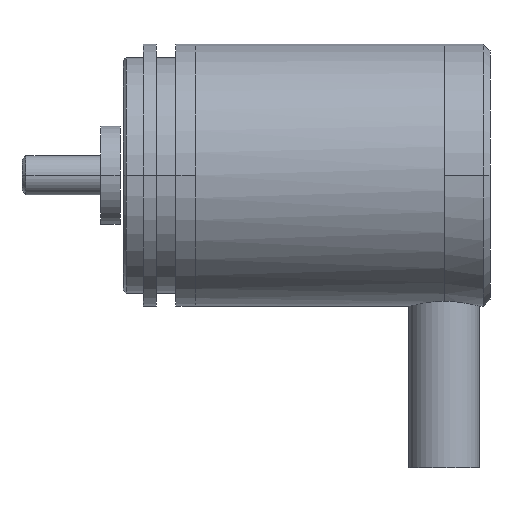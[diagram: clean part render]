
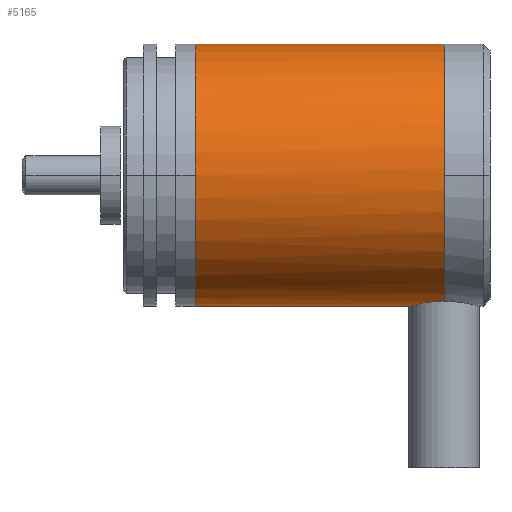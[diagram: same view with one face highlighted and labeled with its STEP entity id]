
A CAD part, front view. The second image highlights one B-rep face of the part: STEP entity #5165.
In plain terms, the highlighted cylindrical face has radius 10 mm (diameter 20 mm), a partial arc.
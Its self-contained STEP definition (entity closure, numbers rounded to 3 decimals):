
#284 = DIRECTION ( 'NONE',  ( 1., 0., 0. ) ) ;
#303 = CARTESIAN_POINT ( 'NONE',  ( 33.202, 11.371, 12.318 ) ) ;
#337 = CARTESIAN_POINT ( 'NONE',  ( 31.846, 9.03, 2.596 ) ) ;
#400 = DIRECTION ( 'NONE',  ( 1., 0., 0. ) ) ;
#762 = CARTESIAN_POINT ( 'NONE',  ( 31.415, 9.339, 2.526 ) ) ;
#934 = ORIENTED_EDGE ( 'NONE', *, *, #5564, .F. ) ;
#1220 = CARTESIAN_POINT ( 'NONE',  ( 30.843, 10.011, 2.406 ) ) ;
#1283 = CARTESIAN_POINT ( 'NONE',  ( 33.202, 11.371, 22.318 ) ) ;
#1316 = ORIENTED_EDGE ( 'NONE', *, *, #5542, .T. ) ;
#1555 = EDGE_LOOP ( 'NONE', ( #2625, #1316, #3606, #934, #2865 ) ) ;
#1561 = DIRECTION ( 'NONE',  ( 1., 0., 0. ) ) ;
#1581 = VERTEX_POINT ( 'NONE', #4446 ) ;
#1647 = DIRECTION ( 'NONE',  ( 1., 0., 0. ) ) ;
#1670 = CARTESIAN_POINT ( 'NONE',  ( 30.588, 10.669, 2.341 ) ) ;
#1712 = DIRECTION ( 'NONE',  ( 1., 0., 0. ) ) ;
#2131 = CIRCLE ( 'NONE', #3285, 10. ) ;
#2161 = CARTESIAN_POINT ( 'NONE',  ( 30.502, 11.194, 2.318 ) ) ;
#2465 = LINE ( 'NONE', #5747, #2896 ) ;
#2625 = ORIENTED_EDGE ( 'NONE', *, *, #5550, .T. ) ;
#2672 = CARTESIAN_POINT ( 'NONE',  ( 32.5, 8.758, 2.665 ) ) ;
#2865 = ORIENTED_EDGE ( 'NONE', *, *, #5569, .F. ) ;
#2896 = VECTOR ( 'NONE', #1561, 1000. ) ;
#3227 = CARTESIAN_POINT ( 'NONE',  ( 32.001, 8.947, 2.616 ) ) ;
#3285 = AXIS2_PLACEMENT_3D ( 'NONE', #3315, #400, #3835 ) ;
#3315 = CARTESIAN_POINT ( 'NONE',  ( 33.202, 11.371, 12.318 ) ) ;
#3349 = AXIS2_PLACEMENT_3D ( 'NONE', #4769, #1647, #5257 ) ;
#3389 = LINE ( 'NONE', #5334, #4793 ) ;
#3539 = CARTESIAN_POINT ( 'NONE',  ( 33.202, 8.671, 2.689 ) ) ;
#3606 = ORIENTED_EDGE ( 'NONE', *, *, #5552, .F. ) ;
#3734 = CARTESIAN_POINT ( 'NONE',  ( 33.202, 8.671, 2.689 ) ) ;
#3762 = CARTESIAN_POINT ( 'NONE',  ( 31.553, 9.226, 2.55 ) ) ;
#3763 = VERTEX_POINT ( 'NONE', #4736 ) ;
#3835 = DIRECTION ( 'NONE',  ( 0., 0., 1. ) ) ;
#3941 = VERTEX_POINT ( 'NONE', #5326 ) ;
#4239 = CARTESIAN_POINT ( 'NONE',  ( 33.022, 8.671, 2.689 ) ) ;
#4261 = CARTESIAN_POINT ( 'NONE',  ( 31.044, 9.711, 2.454 ) ) ;
#4312 = AXIS2_PLACEMENT_3D ( 'NONE', #303, #284, #5268 ) ;
#4446 = CARTESIAN_POINT ( 'NONE',  ( 14.202, 11.371, 2.318 ) ) ;
#4736 = CARTESIAN_POINT ( 'NONE',  ( 30.502, 11.371, 2.318 ) ) ;
#4769 = CARTESIAN_POINT ( 'NONE',  ( 14.202, 11.371, 12.318 ) ) ;
#4791 = CARTESIAN_POINT ( 'NONE',  ( 30.641, 10.498, 2.355 ) ) ;
#4793 = VECTOR ( 'NONE', #1712, 1000. ) ;
#4999 = CYLINDRICAL_SURFACE ( 'NONE', #4312, 10. ) ;
#5026 = B_SPLINE_CURVE_WITH_KNOTS ( 'NONE', 3,
 ( #3734, #4239, #5793, #2672, #6315, #3227, #337, #3762, #762, #4261, #1220, #4791, #1670, #5283, #2161, #5814 ),
 .UNSPECIFIED., .F., .F.,
 ( 4, 2, 2, 2, 2, 2, 2, 4 ),
 ( 0., 0.001, 0.001, 0.002, 0.002, 0.003, 0.004, 0.004 ),
 .UNSPECIFIED. ) ;
#5165 = ADVANCED_FACE ( 'NONE', ( #5666 ), #4999, .T. ) ;
#5257 = DIRECTION ( 'NONE',  ( 0., 0., 1. ) ) ;
#5268 = DIRECTION ( 'NONE',  ( 0., 0., 1. ) ) ;
#5283 = CARTESIAN_POINT ( 'NONE',  ( 30.519, 11.019, 2.323 ) ) ;
#5326 = CARTESIAN_POINT ( 'NONE',  ( 14.202, 11.371, 22.318 ) ) ;
#5334 = CARTESIAN_POINT ( 'NONE',  ( 33.202, 11.371, 22.318 ) ) ;
#5542 = EDGE_CURVE ( 'NONE', #1581, #3763, #2465, .T. ) ;
#5550 = EDGE_CURVE ( 'NONE', #3941, #1581, #5951, .T. ) ;
#5552 = EDGE_CURVE ( 'NONE', #6346, #3763, #5026, .T. ) ;
#5564 = EDGE_CURVE ( 'NONE', #5871, #6346, #2131, .T. ) ;
#5569 = EDGE_CURVE ( 'NONE', #3941, #5871, #3389, .T. ) ;
#5666 = FACE_OUTER_BOUND ( 'NONE', #1555, .T. ) ;
#5747 = CARTESIAN_POINT ( 'NONE',  ( 33.202, 11.371, 2.318 ) ) ;
#5793 = CARTESIAN_POINT ( 'NONE',  ( 32.846, 8.689, 2.684 ) ) ;
#5814 = CARTESIAN_POINT ( 'NONE',  ( 30.502, 11.371, 2.318 ) ) ;
#5871 = VERTEX_POINT ( 'NONE', #1283 ) ;
#5951 = CIRCLE ( 'NONE', #3349, 10. ) ;
#6315 = CARTESIAN_POINT ( 'NONE',  ( 32.328, 8.811, 2.651 ) ) ;
#6346 = VERTEX_POINT ( 'NONE', #3539 ) ;
